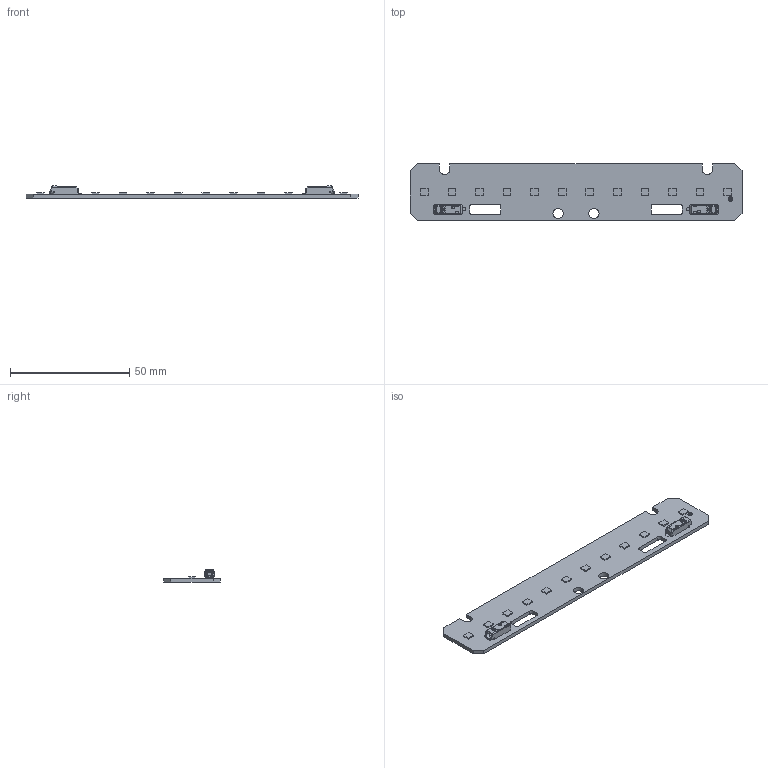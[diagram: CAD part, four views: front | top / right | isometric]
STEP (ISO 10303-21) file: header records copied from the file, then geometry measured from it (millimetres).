
FILE_DESCRIPTION((''),'2;1');
FILE_NAME('16208803_LLE-G5-24X140-650LM','2018-08-21T11:04:09',('bernhard.fink'),(''),'CREO PARAMETRIC BY PTC INC, 2017380','CREO PARAMETRIC BY PTC INC, 2017380','');
FILE_SCHEMA(('AUTOMOTIVE_DESIGN { 1 0 10303 214 1 1 1 1 }'));
Length unit declared in the file: millimetre
Products named in the file (1): 16208803_LLE-G5-24X140-650LM
Bounding box: 139 x 23.6 x 5.1 mm (x, y, z)
Volume: 5389.5 mm3; surface area: 7355.3 mm2
Topology: 1 solids, 1 shells, 592 faces, 1524 edges, 949 vertices
Faces by surface type: plane 269, cylinder 143, bspline 120, cone 34, torus 14, sphere 12
Entity records: 31397 total; most frequent: CARTESIAN_POINT 9015, ORIENTED_EDGE 3020, DIRECTION 2296, PRESENTATION_STYLE_ASSIGNMENT 2103, STYLED_ITEM 1511, CURVE_STYLE 1510, EDGE_CURVE 1510, VERTEX_POINT 947
